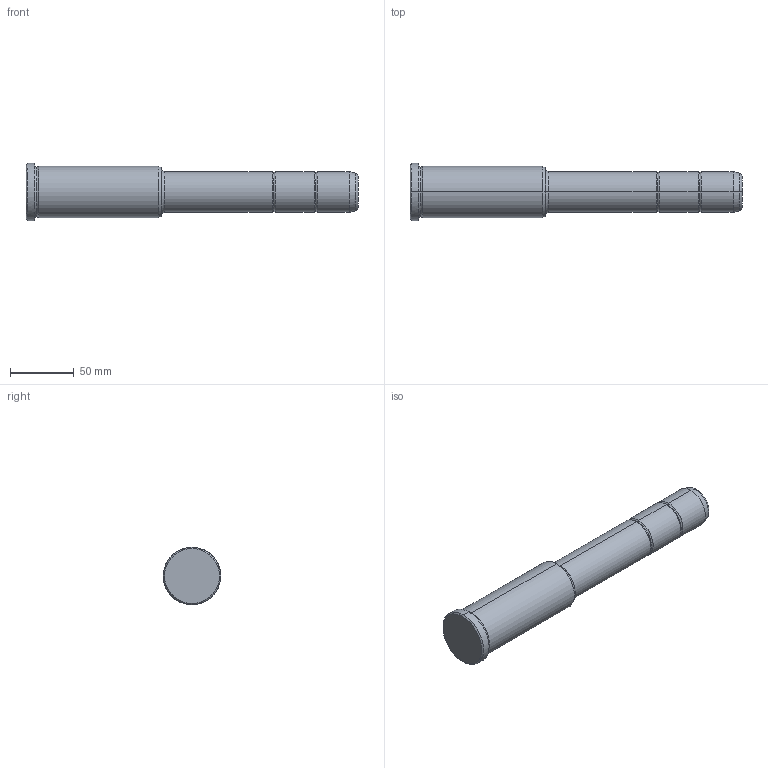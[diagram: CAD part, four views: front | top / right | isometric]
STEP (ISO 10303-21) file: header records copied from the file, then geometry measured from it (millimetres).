
FILE_DESCRIPTION(('CATIA V5 STEP Exchange'),'2;1');
FILE_NAME('C:\Users\Utente\Desktop\IO LAVORO\3D X SITO CF\X SITO\PLASTICA\351\351-32X106X260.stp','2021-09-15T11:45:24+00:00',('none'),('none'),'CATIA Version 5 Release 20 GA (IN-10)','CATIA V5 STEP AP203','none');
FILE_SCHEMA(('CONFIG_CONTROL_DESIGN'));
Length unit declared in the file: millimetre
Products named in the file (1): 351-32X106X260
Bounding box: 260 x 45 x 45 mm (x, y, z)
Volume: 258189 mm3; surface area: 31663.6 mm2
Topology: 1 solids, 1 shells, 36 faces, 102 edges, 70 vertices
Faces by surface type: torus 16, cylinder 10, cone 6, plane 4
Entity records: 1292 total; most frequent: CARTESIAN_POINT 321, ORIENTED_EDGE 204, DIRECTION 166, AXIS2_PLACEMENT_3D 115, EDGE_CURVE 102, CIRCLE 78, VERTEX_POINT 70, EDGE_LOOP 38
